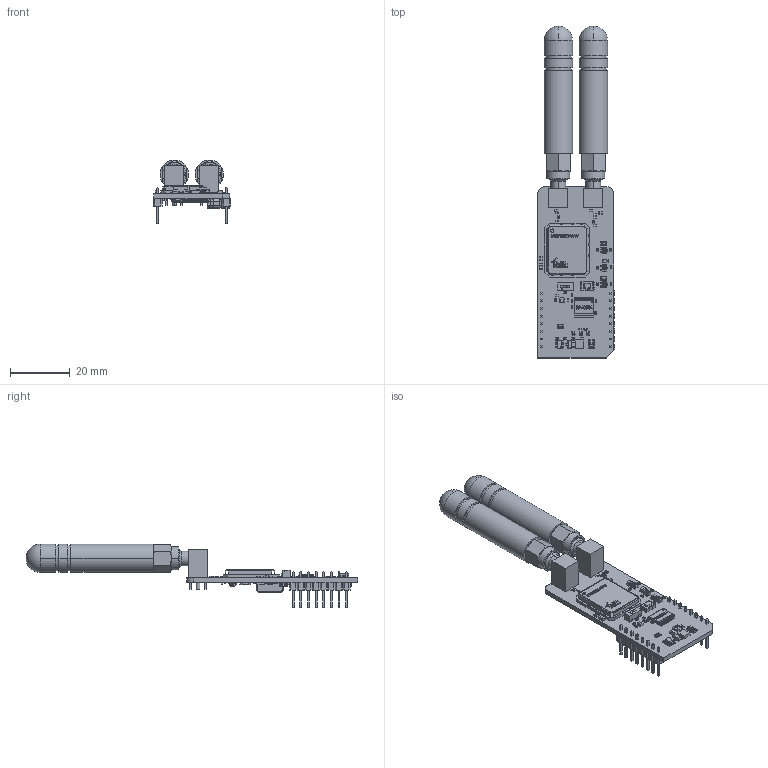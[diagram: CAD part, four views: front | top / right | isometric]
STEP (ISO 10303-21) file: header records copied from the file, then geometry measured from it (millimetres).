
FILE_DESCRIPTION(('Open CASCADE Model'),'2;1');
FILE_NAME('Open CASCADE Shape Model','2026-02-02T10:57:50',('Author'),( 'Open CASCADE'),'Open CASCADE STEP processor 6.8','Open CASCADE 6.8' ,'Unknown');
FILE_SCHEMA(('AUTOMOTIVE_DESIGN { 1 0 10303 214 1 1 1 1 }'));
Length unit declared in the file: millimetre
Products named in the file (162): PCB; Board; U3; 668483392; MBD1; Header_1x8; Free-Models; 1240637040; User_Library-PinHeaderX5-1_PinHeaderX5_Body_1; User_Library-PinHeaderX5-1_PinHeaderX5_Pins_1; JP1; User_Library-R_0805; U2; User_Library-SOT23-6-2; U1; 1118698696; Extruded; Q1; SOT23-3; R4; User_Library-R_0402; C1; User_Library-SMD_CAPACITOR0402; R2; LD3; led_0805_blue; R25; R3; C4; User_Library-SMD_CAPACITOR1210; C6; C7; C8; C10; C11; C15; C16; C17; C18; C19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
Assembly tree (235 placements, depth 10):
  PCB
    Board
    U3
      668483392
    MBD1
      Header_1x8  x2
        PCB
          Free-Models
            1240637040  x2
              User_Library-PinHeaderX5-1_PinHeaderX5_Body_1
              User_Library-PinHeaderX5-1_PinHeaderX5_Pins_1
    JP1
      User_Library-R_0805
    U2
      User_Library-SOT23-6-2
    U1
      1118698696
        Extruded
    Q1
      SOT23-3
    R4
      User_Library-R_0402
    C1
      User_Library-SMD_CAPACITOR0402
    R2
      User_Library-R_0402
    LD3
      led_0805_blue
    R25
      User_Library-R_0402
    R3
      User_Library-R_0402
    C4
      User_Library-SMD_CAPACITOR1210
    C6
      User_Library-SMD_CAPACITOR0402
    C7
      User_Library-SMD_CAPACITOR0402
    C8
      User_Library-SMD_CAPACITOR0402
    C10
      User_Library-SMD_CAPACITOR0402
    C11
      User_Library-SMD_CAPACITOR0402
    C15
      User_Library-SMD_CAPACITOR0402
    C16
      User_Library-SMD_CAPACITOR0402
    C17
      User_Library-SMD_CAPACITOR0402
    C18
      User_Library-SMD_CAPACITOR0402
    C19
      User_Library-SMD_CAPACITOR0402
    C20
      User_Library-SMD_CAPACITOR0402
    C23
      User_Library-SMD_CAPACITOR0402
    C24
      User_Library-SMD_CAPACITOR0402
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Bounding box: 25.78 x 110.84 x 21.36 mm (x, y, z)
Volume: 11158.8 mm3; surface area: 13195.8 mm2
Topology: 354 solids, 354 shells, 10235 faces, 25616 edges, 16249 vertices
Faces by surface type: plane 6381, bspline 2280, cylinder 1240, sphere 294, torus 22, cone 18
Full cylindrical faces by diameter (mm): 0.4 x1, 0.6 x2, 1.307 x12
Entity records: 179274 total; most frequent: CARTESIAN_POINT 49072, ORIENTED_EDGE 23600, DIRECTION 19914, EDGE_CURVE 11800, LINE 9118, VECTOR 9118, VERTEX_POINT 7695, AXIS2_PLACEMENT_3D 5398
